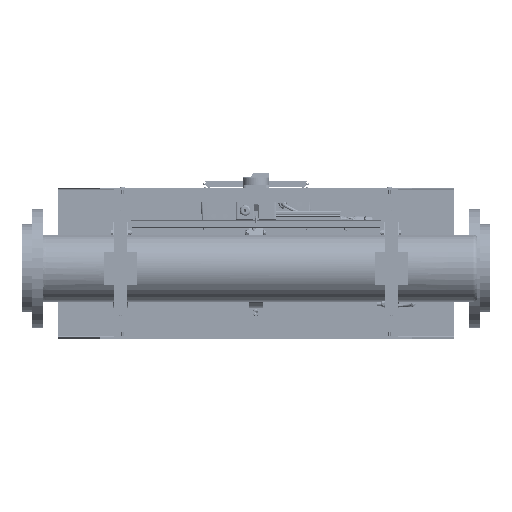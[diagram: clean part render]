
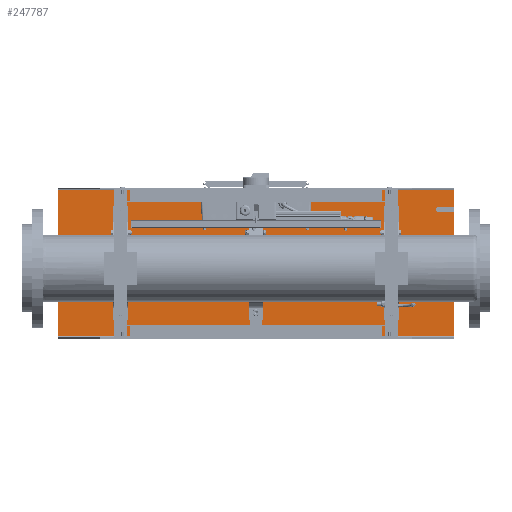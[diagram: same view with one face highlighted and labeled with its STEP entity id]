
A CAD part, front view. The second image highlights one B-rep face of the part: STEP entity #247787.
In plain terms, the highlighted planar face has unit normal (0, -1, 0).
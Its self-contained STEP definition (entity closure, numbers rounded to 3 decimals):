
#13527=CIRCLE('',#263615,6.5);
#28339=FACE_OUTER_BOUND('',#42710,.T.);
#42710=EDGE_LOOP('',(#163591,#163592,#163593,#163594,#163595,#163596,#163597,
#163598));
#58759=LINE('',#368363,#77734);
#58762=LINE('',#368374,#77737);
#58769=LINE('',#368388,#77744);
#58797=LINE('',#368472,#77772);
#58807=LINE('',#368492,#77782);
#58808=LINE('',#368497,#77783);
#58812=LINE('',#368508,#77787);
#77734=VECTOR('',#293507,10.);
#77737=VECTOR('',#293518,10.);
#77744=VECTOR('',#293529,10.);
#77772=VECTOR('',#293609,10.);
#77782=VECTOR('',#293633,10.);
#77783=VECTOR('',#293640,10.);
#77787=VECTOR('',#293656,10.);
#97165=VERTEX_POINT('',#368357);
#97167=VERTEX_POINT('',#368361);
#97169=VERTEX_POINT('',#368367);
#97170=VERTEX_POINT('',#368371);
#97176=VERTEX_POINT('',#368387);
#97205=VERTEX_POINT('',#368469);
#97206=VERTEX_POINT('',#368471);
#97210=VERTEX_POINT('',#368496);
#122305=EDGE_CURVE('',#97165,#97167,#58759,.T.);
#122308=EDGE_CURVE('',#97167,#97169,#13527,.T.);
#122310=EDGE_CURVE('',#97169,#97170,#58762,.T.);
#122317=EDGE_CURVE('',#97176,#97165,#58769,.T.);
#122358=EDGE_CURVE('',#97205,#97206,#58797,.T.);
#122370=EDGE_CURVE('',#97170,#97206,#58807,.T.);
#122372=EDGE_CURVE('',#97210,#97176,#58808,.T.);
#122379=EDGE_CURVE('',#97210,#97205,#58812,.T.);
#163591=ORIENTED_EDGE('',*,*,#122310,.T.);
#163592=ORIENTED_EDGE('',*,*,#122370,.T.);
#163593=ORIENTED_EDGE('',*,*,#122358,.F.);
#163594=ORIENTED_EDGE('',*,*,#122379,.F.);
#163595=ORIENTED_EDGE('',*,*,#122372,.T.);
#163596=ORIENTED_EDGE('',*,*,#122317,.T.);
#163597=ORIENTED_EDGE('',*,*,#122305,.T.);
#163598=ORIENTED_EDGE('',*,*,#122308,.T.);
#226071=PLANE('',#263661);
#247787=ADVANCED_FACE('',(#28339),#226071,.T.);
#263615=AXIS2_PLACEMENT_3D('',#368369,#293513,#293514);
#263661=AXIS2_PLACEMENT_3D('',#368509,#293657,#293658);
#293507=DIRECTION('',(-1.,0.,0.));
#293513=DIRECTION('center_axis',(0.,1.,0.));
#293514=DIRECTION('ref_axis',(0.,0.,
-1.));
#293518=DIRECTION('',(1.,0.,0.));
#293529=DIRECTION('',(0.,0.,1.));
#293609=DIRECTION('',(1.,0.,0.));
#293633=DIRECTION('',(0.,0.,1.));
#293640=DIRECTION('',(1.,0.,0.));
#293656=DIRECTION('',(0.,0.,1.));
#293657=DIRECTION('center_axis',(0.,-1.,0.));
#293658=DIRECTION('ref_axis',(1.,0.,0.));
#368357=CARTESIAN_POINT('',(775.,1452.,-55.));
#368361=CARTESIAN_POINT('',(737.5,1452.,-55.));
#368363=CARTESIAN_POINT('',(518.75,1452.,-55.));
#368367=CARTESIAN_POINT('',(737.5,1452.,-42.));
#368369=CARTESIAN_POINT('Origin',(737.5,1452.,-48.5));
#368371=CARTESIAN_POINT('',(775.,1452.,-42.));
#368374=CARTESIAN_POINT('',(588.145,1452.,-42.));
#368387=CARTESIAN_POINT('',(775.,1452.,-352.));
#368388=CARTESIAN_POINT('',(775.,1452.,-1355.786));
#368469=CARTESIAN_POINT('',(-175.,1452.,-2.));
#368471=CARTESIAN_POINT('',(775.,1452.,-2.));
#368472=CARTESIAN_POINT('',(300.,1452.,-2.));
#368492=CARTESIAN_POINT('',(775.,1452.,-1355.786));
#368496=CARTESIAN_POINT('',(-175.,1452.,-352.));
#368497=CARTESIAN_POINT('',(300.,1452.,-352.));
#368508=CARTESIAN_POINT('',(-175.,1452.,-1355.786));
#368509=CARTESIAN_POINT('Origin',(300.,1452.,-617.));
